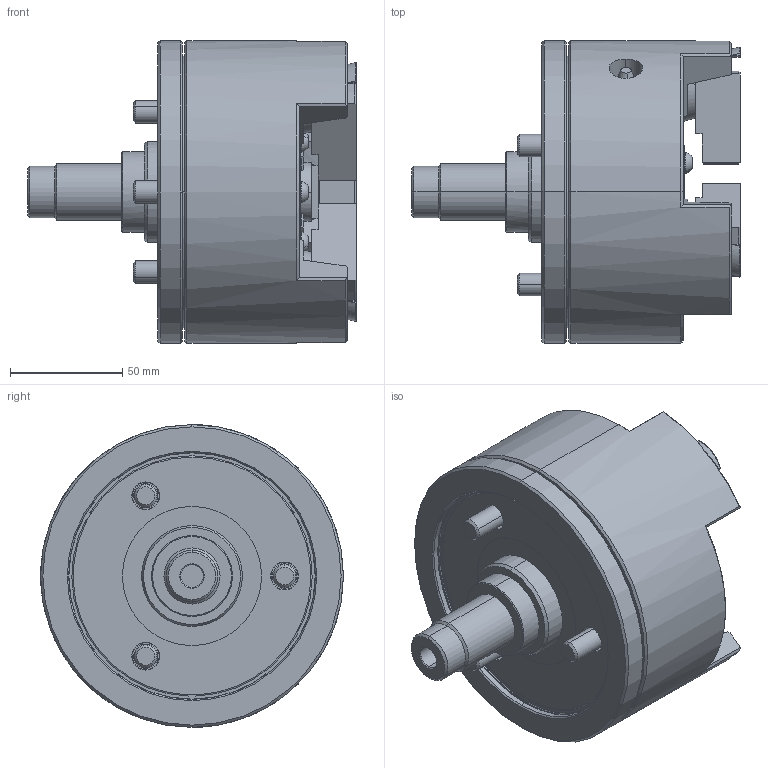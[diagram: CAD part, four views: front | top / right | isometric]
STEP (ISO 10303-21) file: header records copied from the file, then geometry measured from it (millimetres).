
FILE_DESCRIPTION (( 'STEP AP214' ), '1' );
FILE_NAME ('PU205_CL.STEP', '2019-10-18T08:07:23', ( '' ), ( '' ), 'SwSTEP 2.0', 'SolidWorks 2017', '' );
FILE_SCHEMA (( 'AUTOMOTIVE_DESIGN' ));
Length unit declared in the file: millimetre
Products named in the file (4): 結合; 0030108020; 61P340355; PU205_CL
Assembly tree (7 placements, depth 2):
  PU205_CL
    61P340355  x3
    0030108020  x3
    結合
Bounding box: 146.5 x 135 x 135 mm (x, y, z)
Volume: 980039.7 mm3; surface area: 119304.6 mm2
Topology: 7 solids, 7 shells, 964 faces, 2402 edges, 1510 vertices
Faces by surface type: plane 471, cone 178, cylinder 155, bspline 129, torus 31
Entity records: 30720 total; most frequent: CARTESIAN_POINT 11033, ORIENTED_EDGE 4296, DIRECTION 3619, EDGE_CURVE 2148, VERTEX_POINT 1368, AXIS2_PLACEMENT_3D 1221, VECTOR 1177, LINE 1177
